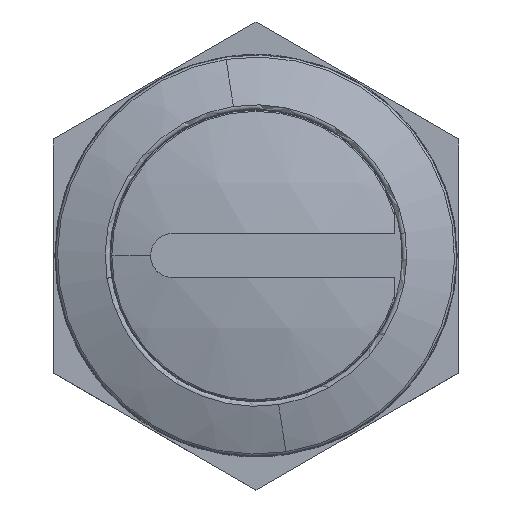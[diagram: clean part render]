
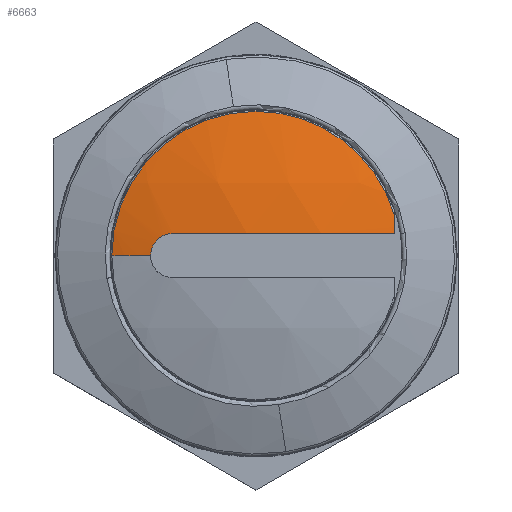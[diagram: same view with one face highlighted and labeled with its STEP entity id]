
A CAD part, top view. The second image highlights one B-rep face of the part: STEP entity #6663.
In plain terms, the highlighted spherical face has radius 27 mm.
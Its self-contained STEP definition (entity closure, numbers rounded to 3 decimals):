
#222 = EDGE_CURVE ( 'NONE', #2708, #6713, #773, .T. ) ;
#400 = CIRCLE ( 'NONE', #1525, 7.829 ) ;
#501 = CARTESIAN_POINT ( 'NONE',  ( -4.525, 1.2, 4.691 ) ) ;
#538 = CIRCLE ( 'NONE', #7282, 25.937 ) ;
#705 = VERTEX_POINT ( 'NONE', #4880 ) ;
#773 = CIRCLE ( 'NONE', #3278, 7.829 ) ;
#787 = AXIS2_PLACEMENT_3D ( 'NONE', #940, #4978, #2094 ) ;
#834 = EDGE_CURVE ( 'NONE', #6713, #5645, #400, .T. ) ;
#940 = CARTESIAN_POINT ( 'NONE',  ( 0., 1.2, -21.9 ) ) ;
#1094 = CARTESIAN_POINT ( 'NONE',  ( 0., 0., 3.94 ) ) ;
#1289 = CARTESIAN_POINT ( 'NONE',  ( 0., 0., -21.9 ) ) ;
#1338 = DIRECTION ( 'NONE',  ( -1., 0., 0. ) ) ;
#1525 = AXIS2_PLACEMENT_3D ( 'NONE', #7167, #3764, #6053 ) ;
#2094 = DIRECTION ( 'NONE',  ( 0., 0., -1. ) ) ;
#2390 = VERTEX_POINT ( 'NONE', #3914 ) ;
#2566 = ORIENTED_EDGE ( 'NONE', *, *, #834, .T. ) ;
#2628 = SPHERICAL_SURFACE ( 'NONE', #6873, 27. ) ;
#2670 = B_SPLINE_CURVE_WITH_KNOTS ( 'NONE', 3,
 ( #5585, #6138, #5092, #3386, #5659, #5119, #2759, #3887, #6735, #501 ),
 .UNSPECIFIED., .F., .F.,
 ( 4, 2, 2, 2, 4 ),
 ( 0., 0., 0.001, 0.001, 0.002 ),
 .UNSPECIFIED. ) ;
#2708 = VERTEX_POINT ( 'NONE', #4433 ) ;
#2759 = CARTESIAN_POINT ( 'NONE',  ( -5.126, 1.05, 4.589 ) ) ;
#2797 = DIRECTION ( 'NONE',  ( 0., 0., 1. ) ) ;
#2819 = ORIENTED_EDGE ( 'NONE', *, *, #4245, .T. ) ;
#2837 = CIRCLE ( 'NONE', #787, 26.973 ) ;
#3278 = AXIS2_PLACEMENT_3D ( 'NONE', #1094, #2797, #3926 ) ;
#3386 = CARTESIAN_POINT ( 'NONE',  ( -5.572, 0.608, 4.512 ) ) ;
#3444 = EDGE_CURVE ( 'NONE', #3639, #2390, #2670, .T. ) ;
#3553 = ORIENTED_EDGE ( 'NONE', *, *, #222, .T. ) ;
#3559 = CARTESIAN_POINT ( 'NONE',  ( 0., 0., -21.9 ) ) ;
#3639 = VERTEX_POINT ( 'NONE', #5696 ) ;
#3764 = DIRECTION ( 'NONE',  ( 0., 0., 1. ) ) ;
#3887 = CARTESIAN_POINT ( 'NONE',  ( -4.839, 1.169, 4.638 ) ) ;
#3914 = CARTESIAN_POINT ( 'NONE',  ( -4.525, 1.2, 4.691 ) ) ;
#3926 = DIRECTION ( 'NONE',  ( 0., -1., 0. ) ) ;
#4245 = EDGE_CURVE ( 'NONE', #5645, #3639, #7206, .T. ) ;
#4433 = CARTESIAN_POINT ( 'NONE',  ( 7.5, 2.246, 3.94 ) ) ;
#4474 = DIRECTION ( 'NONE',  ( -1., 0., 0. ) ) ;
#4627 = DIRECTION ( 'NONE',  ( 0., 1., 0. ) ) ;
#4705 = CARTESIAN_POINT ( 'NONE',  ( 0., 7.829, 3.94 ) ) ;
#4857 = ORIENTED_EDGE ( 'NONE', *, *, #5742, .T. ) ;
#4880 = CARTESIAN_POINT ( 'NONE',  ( 7.5, 1.2, 4.01 ) ) ;
#4943 = DIRECTION ( 'NONE',  ( 0., 0., 1. ) ) ;
#4978 = DIRECTION ( 'NONE',  ( 0., 1., 0. ) ) ;
#4996 = CARTESIAN_POINT ( 'NONE',  ( 7.5, 0., -21.9 ) ) ;
#5092 = CARTESIAN_POINT ( 'NONE',  ( -5.693, 0.316, 4.492 ) ) ;
#5094 = EDGE_CURVE ( 'NONE', #2390, #705, #2837, .T. ) ;
#5119 = CARTESIAN_POINT ( 'NONE',  ( -5.26, 0.961, 4.566 ) ) ;
#5226 = DIRECTION ( 'NONE',  ( -1., 0., 0. ) ) ;
#5508 = ORIENTED_EDGE ( 'NONE', *, *, #3444, .T. ) ;
#5585 = CARTESIAN_POINT ( 'NONE',  ( -5.725, 0., 4.486 ) ) ;
#5645 = VERTEX_POINT ( 'NONE', #7100 ) ;
#5655 = AXIS2_PLACEMENT_3D ( 'NONE', #3559, #4627, #5226 ) ;
#5659 = CARTESIAN_POINT ( 'NONE',  ( -5.482, 0.741, 4.528 ) ) ;
#5696 = CARTESIAN_POINT ( 'NONE',  ( -5.725, 0., 4.486 ) ) ;
#5742 = EDGE_CURVE ( 'NONE', #705, #2708, #538, .T. ) ;
#5825 = FACE_OUTER_BOUND ( 'NONE', #6133, .T. ) ;
#6053 = DIRECTION ( 'NONE',  ( 0., -1., 0. ) ) ;
#6133 = EDGE_LOOP ( 'NONE', ( #2566, #2819, #5508, #6469, #4857, #3553 ) ) ;
#6138 = CARTESIAN_POINT ( 'NONE',  ( -5.725, 0.16, 4.486 ) ) ;
#6357 = DIRECTION ( 'NONE',  ( 0., -1., 0. ) ) ;
#6469 = ORIENTED_EDGE ( 'NONE', *, *, #5094, .T. ) ;
#6663 = ADVANCED_FACE ( 'NONE', ( #5825 ), #2628, .T. ) ;
#6713 = VERTEX_POINT ( 'NONE', #4705 ) ;
#6735 = CARTESIAN_POINT ( 'NONE',  ( -4.682, 1.2, 4.664 ) ) ;
#6873 = AXIS2_PLACEMENT_3D ( 'NONE', #1289, #6357, #1338 ) ;
#7100 = CARTESIAN_POINT ( 'NONE',  ( -7.829, 0., 3.94 ) ) ;
#7167 = CARTESIAN_POINT ( 'NONE',  ( 0., 0., 3.94 ) ) ;
#7206 = CIRCLE ( 'NONE', #5655, 27. ) ;
#7282 = AXIS2_PLACEMENT_3D ( 'NONE', #4996, #4474, #4943 ) ;
